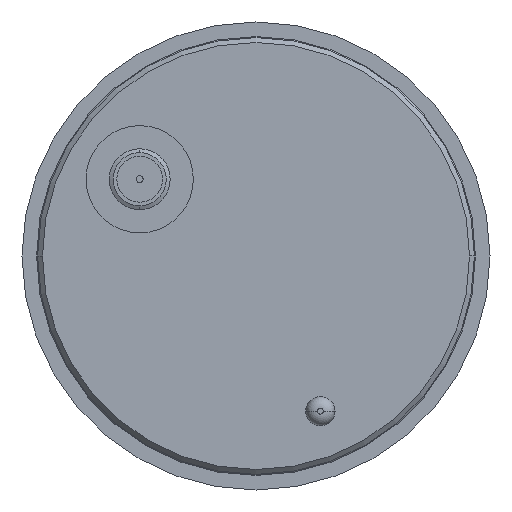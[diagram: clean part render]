
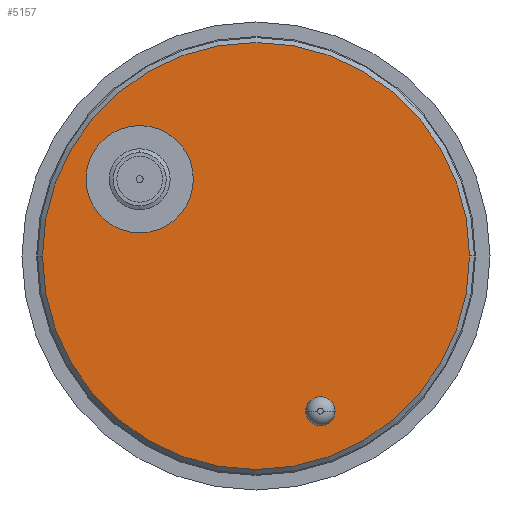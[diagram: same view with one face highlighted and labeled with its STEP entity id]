
A CAD part, front view. The second image highlights one B-rep face of the part: STEP entity #5157.
In plain terms, the highlighted planar face has unit normal (0, -1, 0).
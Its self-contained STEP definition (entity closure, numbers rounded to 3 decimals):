
#144 = CARTESIAN_POINT ( 'NONE',  ( 21.9, 0., 0. ) ) ;
#156 = CARTESIAN_POINT ( 'NONE',  ( -21.9, 0., 0. ) ) ;
#178 = CARTESIAN_POINT ( 'NONE',  ( -11.929, 0., 13.375 ) ) ;
#179 = CARTESIAN_POINT ( 'NONE',  ( -11.929, 0., 2.375 ) ) ;
#183 = CARTESIAN_POINT ( 'NONE',  ( 8.104, 0., -15.92 ) ) ;
#188 = CARTESIAN_POINT ( 'NONE',  ( 5.104, 0., -15.92 ) ) ;
#354 = AXIS2_PLACEMENT_3D ( 'NONE', #6031, #6030, #6029 ) ;
#359 = AXIS2_PLACEMENT_3D ( 'NONE', #6034, #6033, #6032 ) ;
#362 = CIRCLE ( 'NONE', #354, 5.5 ) ;
#364 = CIRCLE ( 'NONE', #359, 21.9 ) ;
#367 = AXIS2_PLACEMENT_3D ( 'NONE', #6037, #6036, #6035 ) ;
#368 = CIRCLE ( 'NONE', #367, 1.5 ) ;
#423 = AXIS2_PLACEMENT_3D ( 'NONE', #4273, #4272, #4271 ) ;
#431 = CIRCLE ( 'NONE', #423, 21.9 ) ;
#612 = EDGE_LOOP ( 'NONE', ( #688, #696 ) ) ;
#613 = EDGE_LOOP ( 'NONE', ( #678, #682 ) ) ;
#642 = EDGE_LOOP ( 'NONE', ( #689, #692 ) ) ;
#678 = ORIENTED_EDGE ( 'NONE', *, *, #5494, .T. ) ;
#682 = ORIENTED_EDGE ( 'NONE', *, *, #1655, .T. ) ;
#688 = ORIENTED_EDGE ( 'NONE', *, *, #1624, .F. ) ;
#689 = ORIENTED_EDGE ( 'NONE', *, *, #5509, .T. ) ;
#692 = ORIENTED_EDGE ( 'NONE', *, *, #1657, .T. ) ;
#696 = ORIENTED_EDGE ( 'NONE', *, *, #1656, .F. ) ;
#1159 = AXIS2_PLACEMENT_3D ( 'NONE', #2376, #2362, #2380 ) ;
#1624 = EDGE_CURVE ( 'NONE', #2954, #2966, #431, .T. ) ;
#1655 = EDGE_CURVE ( 'NONE', #2825, #2826, #368, .T. ) ;
#1656 = EDGE_CURVE ( 'NONE', #2966, #2954, #364, .T. ) ;
#1657 = EDGE_CURVE ( 'NONE', #2832, #2831, #362, .T. ) ;
#2360 = FACE_OUTER_BOUND ( 'NONE', #612, .T. ) ;
#2362 = DIRECTION ( 'NONE',  ( 0., 1., 0. ) ) ;
#2375 = FACE_BOUND ( 'NONE', #613, .T. ) ;
#2376 = CARTESIAN_POINT ( 'NONE',  ( -5.237, 0., 0. ) ) ;
#2378 = FACE_BOUND ( 'NONE', #642, .T. ) ;
#2379 = PLANE ( 'NONE',  #1159 ) ;
#2380 = DIRECTION ( 'NONE',  ( -1., 0., 0. ) ) ;
#2825 = VERTEX_POINT ( 'NONE', #183 ) ;
#2826 = VERTEX_POINT ( 'NONE', #188 ) ;
#2831 = VERTEX_POINT ( 'NONE', #179 ) ;
#2832 = VERTEX_POINT ( 'NONE', #178 ) ;
#2954 = VERTEX_POINT ( 'NONE', #156 ) ;
#2966 = VERTEX_POINT ( 'NONE', #144 ) ;
#3526 = AXIS2_PLACEMENT_3D ( 'NONE', #5710, #5711, #5712 ) ;
#3528 = CIRCLE ( 'NONE', #3526, 5.5 ) ;
#3536 = AXIS2_PLACEMENT_3D ( 'NONE', #5689, #5690, #5691 ) ;
#3538 = CIRCLE ( 'NONE', #3536, 1.5 ) ;
#4271 = DIRECTION ( 'NONE',  ( -1., 0., 0. ) ) ;
#4272 = DIRECTION ( 'NONE',  ( 0., 1., 0. ) ) ;
#4273 = CARTESIAN_POINT ( 'NONE',  ( 0., 0., 0. ) ) ;
#5157 = ADVANCED_FACE ( 'NONE', ( #2375, #2360, #2378 ), #2379, .F. ) ;
#5494 = EDGE_CURVE ( 'NONE', #2826, #2825, #3538, .T. ) ;
#5509 = EDGE_CURVE ( 'NONE', #2831, #2832, #3528, .T. ) ;
#5689 = CARTESIAN_POINT ( 'NONE',  ( 6.604, 0., -15.92 ) ) ;
#5690 = DIRECTION ( 'NONE',  ( 0., 1., 0. ) ) ;
#5691 = DIRECTION ( 'NONE',  ( -1., 0., 0. ) ) ;
#5710 = CARTESIAN_POINT ( 'NONE',  ( -11.929, 0., 7.875 ) ) ;
#5711 = DIRECTION ( 'NONE',  ( 0., 1., 0. ) ) ;
#5712 = DIRECTION ( 'NONE',  ( 0., 0., 1. ) ) ;
#6029 = DIRECTION ( 'NONE',  ( 0., 0., 1. ) ) ;
#6030 = DIRECTION ( 'NONE',  ( 0., 1., 0. ) ) ;
#6031 = CARTESIAN_POINT ( 'NONE',  ( -11.929, 0., 7.875 ) ) ;
#6032 = DIRECTION ( 'NONE',  ( -1., 0., 0. ) ) ;
#6033 = DIRECTION ( 'NONE',  ( 0., 1., 0. ) ) ;
#6034 = CARTESIAN_POINT ( 'NONE',  ( 0., 0., 0. ) ) ;
#6035 = DIRECTION ( 'NONE',  ( -1., 0., 0. ) ) ;
#6036 = DIRECTION ( 'NONE',  ( 0., 1., 0. ) ) ;
#6037 = CARTESIAN_POINT ( 'NONE',  ( 6.604, 0., -15.92 ) ) ;
